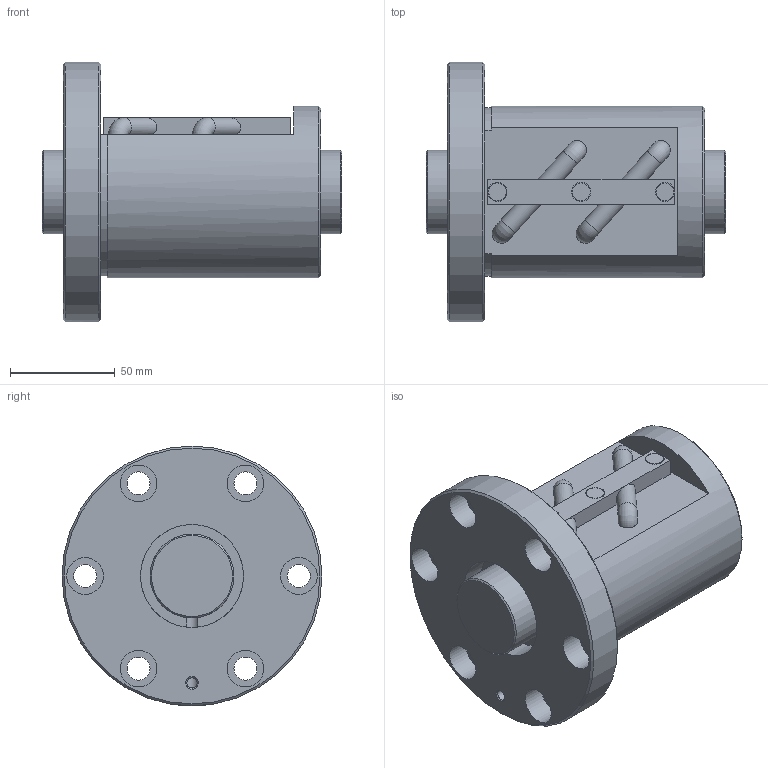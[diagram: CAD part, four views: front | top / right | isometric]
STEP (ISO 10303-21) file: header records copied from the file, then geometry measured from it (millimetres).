
FILE_DESCRIPTION(/* description */ ('STEP AP203'),/* implementation_level */ '2;1');
FILE_NAME(/* name */ 'BIF4010V-7RRG0+143LC0_000',/* time_stamp */ '2024-07-15T08:24:21+02:00',/* author */ ('License CC BY-ND 4.0'),/* organization */ ('CADENAS'),/* preprocessor_version */ 'ST-DEVELOPER v19.3',/* originating_system */ 'PARTsolutions',/* authorisation */ ' ');
FILE_SCHEMA (('CONFIG_CONTROL_DESIGN'));
Length unit declared in the file: millimetre
Products named in the file (3): BIF4010V-7RRG0+143LC0_000; BIF4010V-7RR000 Shaft; BIF4010V-7RR Nut
Assembly tree (2 placements, depth 2):
  BIF4010V-7RRG0+143LC0_000
    BIF4010V-7RR000 Shaft
    BIF4010V-7RR Nut
Bounding box: 143 x 124 x 124 mm (x, y, z)
Volume: 720592.6 mm3; surface area: 100477.4 mm2
Topology: 2 solids, 2 shells, 85 faces, 191 edges, 122 vertices
Faces by surface type: plane 43, cylinder 32, cone 6, torus 4
Full cylindrical faces by diameter (mm): 4.917 x1, 6.199 x2, 8.5 x3, 9.1 x1, 11 x6, 17.5 x6, 40 x2, 49.2 x2, 82 x1, 124 x1
Entity records: 2365 total; most frequent: CARTESIAN_POINT 476, DIRECTION 408, ORIENTED_EDGE 300, AXIS2_PLACEMENT_3D 178, EDGE_CURVE 150, EDGE_LOOP 146, FACE_BOUND 146, VERTEX_POINT 114
